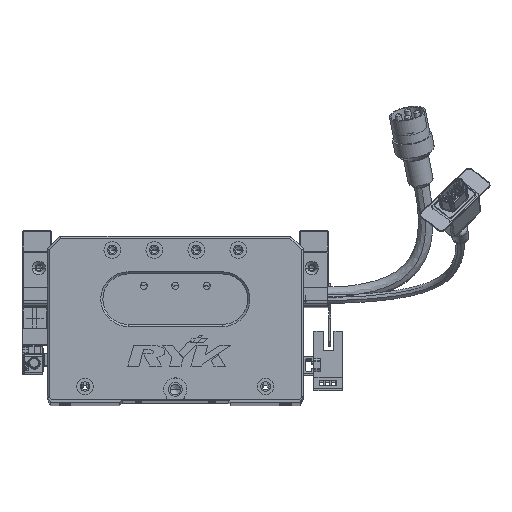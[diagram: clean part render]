
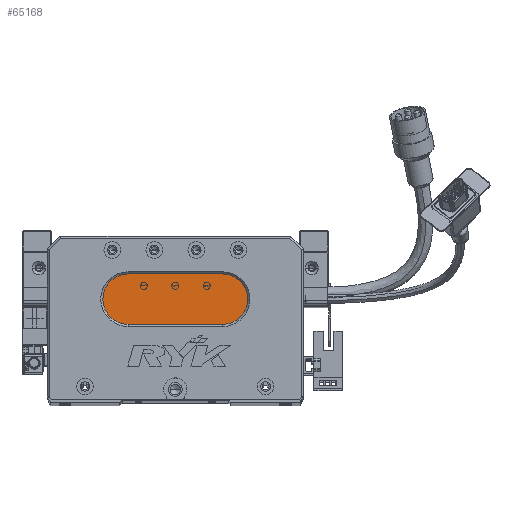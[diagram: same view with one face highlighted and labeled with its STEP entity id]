
A CAD part, top view. The second image highlights one B-rep face of the part: STEP entity #65168.
In plain terms, the highlighted planar face has unit normal (0, 0, 1) as drawn and (0, 0, -1) by its records, which use the part's own axes.
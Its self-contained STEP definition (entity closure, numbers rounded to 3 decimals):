
#43 = VECTOR ( 'NONE', #8074, 1000. ) ;
#693 = ORIENTED_EDGE ( 'NONE', *, *, #38774, .T. ) ;
#858 = VERTEX_POINT ( 'NONE', #76374 ) ;
#6322 = CIRCLE ( 'NONE', #69161, 12. ) ;
#7928 = EDGE_LOOP ( 'NONE', ( #67922, #36576, #51000, #35529, #693 ) ) ;
#8074 = DIRECTION ( 'NONE',  ( -1., 0., 0. ) ) ;
#8222 = CARTESIAN_POINT ( 'NONE',  ( 38.5, 60., 13. ) ) ;
#10505 = CARTESIAN_POINT ( 'NONE',  ( 83.5, 36., 13. ) ) ;
#12278 = FACE_OUTER_BOUND ( 'NONE', #7928, .T. ) ;
#12556 = PLANE ( 'NONE',  #60756 ) ;
#16416 = CARTESIAN_POINT ( 'NONE',  ( 83.5, 60., 13. ) ) ;
#17503 = DIRECTION ( 'NONE',  ( -1., 0., 0. ) ) ;
#18839 = VERTEX_POINT ( 'NONE', #24677 ) ;
#20355 = VERTEX_POINT ( 'NONE', #10505 ) ;
#20697 = VERTEX_POINT ( 'NONE', #8222 ) ;
#21023 = CIRCLE ( 'NONE', #66490, 12. ) ;
#24677 = CARTESIAN_POINT ( 'NONE',  ( 38.5, 36., 13. ) ) ;
#25501 = CARTESIAN_POINT ( 'NONE',  ( 83.5, 48., 13. ) ) ;
#26550 = CARTESIAN_POINT ( 'NONE',  ( 83.5, 36., 13. ) ) ;
#32981 = VECTOR ( 'NONE', #41054, 1000. ) ;
#35518 = CARTESIAN_POINT ( 'NONE',  ( 83.5, 60., 13. ) ) ;
#35529 = ORIENTED_EDGE ( 'NONE', *, *, #39444, .T. ) ;
#35538 = AXIS2_PLACEMENT_3D ( 'NONE', #55539, #55261, #17503 ) ;
#36426 = EDGE_CURVE ( 'NONE', #20355, #18839, #60269, .T. ) ;
#36576 = ORIENTED_EDGE ( 'NONE', *, *, #36426, .T. ) ;
#38774 = EDGE_CURVE ( 'NONE', #20697, #39404, #44910, .T. ) ;
#39404 = VERTEX_POINT ( 'NONE', #16416 ) ;
#39444 = EDGE_CURVE ( 'NONE', #858, #20697, #65449, .T. ) ;
#41054 = DIRECTION ( 'NONE',  ( 1., 0., 0. ) ) ;
#44910 = LINE ( 'NONE', #35518, #32981 ) ;
#50347 = DIRECTION ( 'NONE',  ( -1., 0., 0. ) ) ;
#51000 = ORIENTED_EDGE ( 'NONE', *, *, #55081, .T. ) ;
#51174 = DIRECTION ( 'NONE',  ( 0., 0., -1. ) ) ;
#53936 = DIRECTION ( 'NONE',  ( 0., 0., -1. ) ) ;
#55081 = EDGE_CURVE ( 'NONE', #18839, #858, #21023, .T. ) ;
#55261 = DIRECTION ( 'NONE',  ( 0., 0., -1. ) ) ;
#55539 = CARTESIAN_POINT ( 'NONE',  ( 38.5, 48., 13. ) ) ;
#60269 = LINE ( 'NONE', #26550, #43 ) ;
#60756 = AXIS2_PLACEMENT_3D ( 'NONE', #25501, #51174, #50347 ) ;
#64838 = DIRECTION ( 'NONE',  ( 0., 0., -1. ) ) ;
#65168 = ADVANCED_FACE ( 'NONE', ( #12278 ), #12556, .T. ) ;
#65349 = EDGE_CURVE ( 'NONE', #39404, #20355, #6322, .T. ) ;
#65449 = CIRCLE ( 'NONE', #35538, 12. ) ;
#65708 = CARTESIAN_POINT ( 'NONE',  ( 38.5, 48., 13. ) ) ;
#66490 = AXIS2_PLACEMENT_3D ( 'NONE', #65708, #53936, #66797 ) ;
#66797 = DIRECTION ( 'NONE',  ( -1., 0., 0. ) ) ;
#67922 = ORIENTED_EDGE ( 'NONE', *, *, #65349, .T. ) ;
#69161 = AXIS2_PLACEMENT_3D ( 'NONE', #70372, #64838, #71167 ) ;
#70372 = CARTESIAN_POINT ( 'NONE',  ( 83.5, 48., 13. ) ) ;
#71167 = DIRECTION ( 'NONE',  ( -1., 0., 0. ) ) ;
#76374 = CARTESIAN_POINT ( 'NONE',  ( 26.5, 48., 13. ) ) ;
